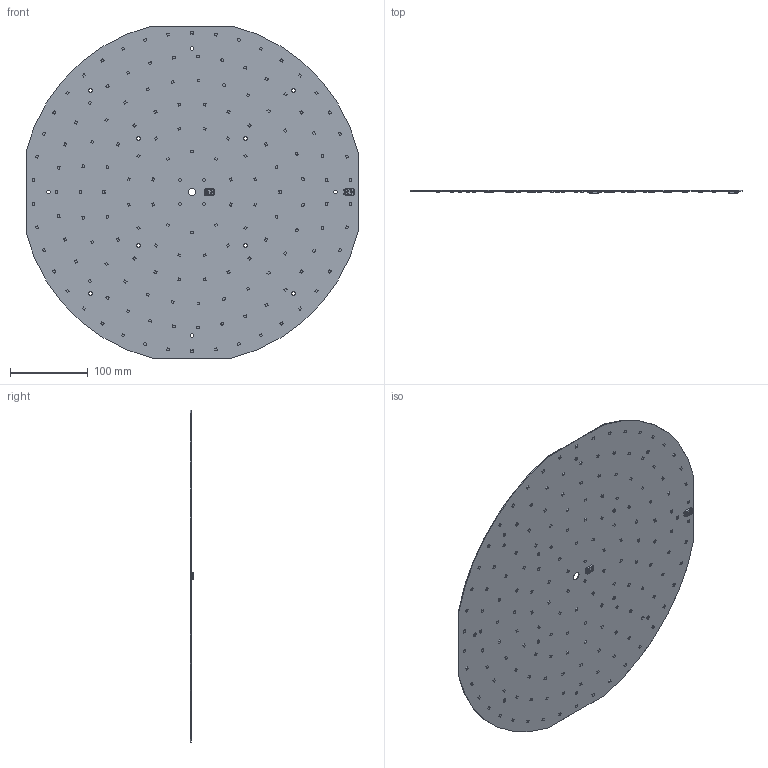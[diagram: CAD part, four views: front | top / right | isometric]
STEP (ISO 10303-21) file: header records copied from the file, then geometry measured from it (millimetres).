
FILE_DESCRIPTION(/* description */ ('Unknown'),/* implementation_level */ '2;1');
FILE_NAME(/* name */ 'RdLED 440mm 5000lm 39&117V G2 sh-000 2019-11-21',/* time_stamp */ '2019-11-21T11:26:56+01:00',/* author */ ('Unknown'),/* organization */ ('Unknown'),/* preprocessor_version */ 'ST-DEVELOPER v16.7',/* originating_system */ 'DEX',/* authorisation */ $);
FILE_SCHEMA (('AUTOMOTIVE_DESIGN {1 0 10303 214 3 1 1}'));
Products named in the file (1): RdLED 440mm 5000lm 39&117V G2 sh-000 2019-11-21
Bounding box: 428 x 4.45 x 428 mm (x, y, z)
Volume: 151951.4 mm3; surface area: 304423.9 mm2
Topology: 1 solids, 1 shells, 3325 faces, 8720 edges, 5707 vertices
Faces by surface type: plane 2820, cylinder 237, bspline 174, cone 52, torus 22, sphere 20
Full cylindrical faces by diameter (mm): 4.5 x12, 10 x1
Entity records: 128089 total; most frequent: CARTESIAN_POINT 24606, ORIENTED_EDGE 17312, DIRECTION 14752, EDGE_CURVE 8656, LINE 7560, VECTOR 7560, VERTEX_POINT 5684, EDGE_LOOP 3714
